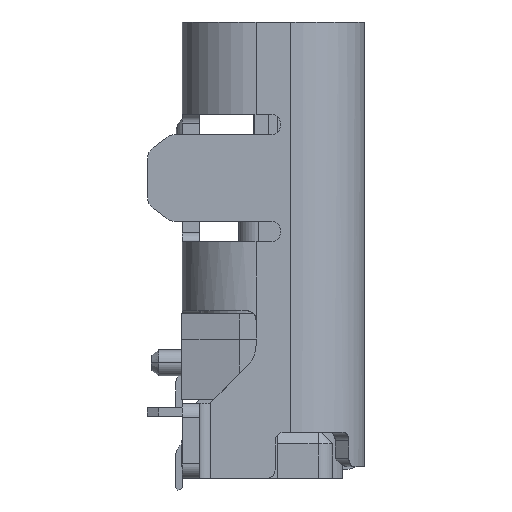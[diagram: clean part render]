
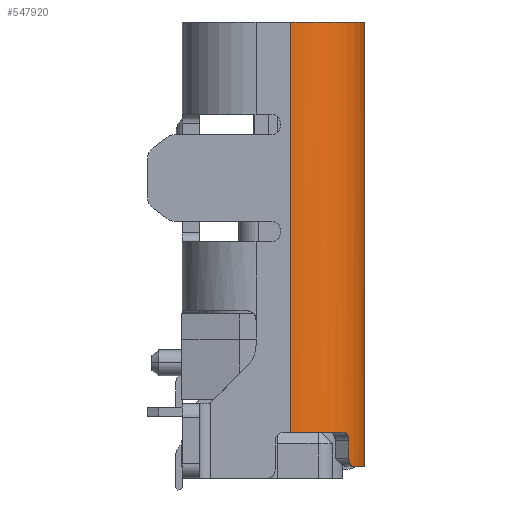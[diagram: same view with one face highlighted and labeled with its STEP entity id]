
A CAD part, left-side view. The second image highlights one B-rep face of the part: STEP entity #547920.
In plain terms, the highlighted cylindrical face has radius 1.28 mm (diameter 2.56 mm), a partial arc.
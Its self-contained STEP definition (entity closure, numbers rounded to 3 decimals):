
#470830=CARTESIAN_POINT('',(-3.982,-1.306,
-2.15));
#470840=DIRECTION('',(0.,0.,-1.));
#470850=VECTOR('',#470840,1000.);
#470860=LINE('',#470830,#470850);
#470870=CARTESIAN_POINT('',(-3.982,-1.306,-2.15));
#470880=VERTEX_POINT('',#470870);
#470890=CARTESIAN_POINT('',(-3.982,-1.306,
-2.45));
#470900=VERTEX_POINT('',#470890);
#470910=EDGE_CURVE('',#470880,#470900,#470860,.T.);
#472930=CARTESIAN_POINT('',(-3.19,-1.58,-2.6));
#472940=VERTEX_POINT('',#472930);
#472970=CARTESIAN_POINT('',(-3.19,-1.58,-2.6));
#472980=DIRECTION('',(0.,0.,
1.));
#472990=VECTOR('',#472980,1000.);
#473000=LINE('',#472970,#472990);
#473010=CARTESIAN_POINT('',(-3.19,-1.58,5.1));
#473020=VERTEX_POINT('',#473010);
#473030=EDGE_CURVE('',#472940,#473020,#473000,.T.);
#532390=CARTESIAN_POINT('',(-3.19,-0.3,5.1));
#532400=DIRECTION('',(0.,0.,1.));
#532410=DIRECTION('',(-1.,0.,0.));
#532420=AXIS2_PLACEMENT_3D('',#532390,#532400,#532410);
#532430=CIRCLE('',#532420,1.28);
#532440=CARTESIAN_POINT('',(-4.47,-0.3,5.1));
#532450=VERTEX_POINT('',#532440);
#532460=EDGE_CURVE('',#532450,#473020,#532430,.T.);
#534760=CARTESIAN_POINT('',(-4.47,-0.3,5.1));
#534770=DIRECTION('',(0.,0.,1.));
#534780=VECTOR('',#534770,1.);
#534790=LINE('',#534760,#534780);
#534800=CARTESIAN_POINT('',(-4.47,-0.3,-2.));
#534810=VERTEX_POINT('',#534800);
#534820=EDGE_CURVE('',#534810,#532450,#534790,.T.);
#547180=CARTESIAN_POINT('',(-3.19,-0.3,-2.));
#547190=DIRECTION('',(0.,0.,-1.));
#547200=DIRECTION('',(-0.706,-0.708,0.));
#547210=AXIS2_PLACEMENT_3D('',#547180,#547190,#547200);
#547220=CIRCLE('',#547210,1.28);
#547230=CARTESIAN_POINT('',(-4.094,-1.206,-2.));
#547240=VERTEX_POINT('',#547230);
#547250=EDGE_CURVE('',#547240,#534810,#547220,.T.);
#547420=CARTESIAN_POINT('',(-3.982,-1.306,
-2.15));
#547430=CARTESIAN_POINT('',(-3.982,-1.306,
-2.134));
#547440=CARTESIAN_POINT('',(-3.986,-1.303,
-2.103));
#547450=CARTESIAN_POINT('',(-4.003,-1.289,
-2.06));
#547460=CARTESIAN_POINT('',(-4.028,-1.267,
-2.027));
#547470=CARTESIAN_POINT('',(-4.06,-1.239,
-2.005));
#547480=CARTESIAN_POINT('',(-4.083,-1.217,-2.));
#547490=CARTESIAN_POINT('',(-4.094,-1.206,-2.));
#547500=B_SPLINE_CURVE_WITH_KNOTS('',3,(#547420,#547430,#547440,#547450,
#547460,#547470,#547480,#547490),.UNSPECIFIED.,.F.,.F.,(4,1,1,1,1,4),(0.
,0.2,0.4,0.6,0.8,1.),.UNSPECIFIED.);
#547510=EDGE_CURVE('',#470880,#547240,#547500,.T.);
#547590=CARTESIAN_POINT('',(-3.19,-0.3,5.1));
#547600=DIRECTION('',(0.,0.,1.));
#547610=DIRECTION('',(1.,0.,0.));
#547620=AXIS2_PLACEMENT_3D('',#547590,#547600,#547610);
#547630=CYLINDRICAL_SURFACE('',#547620,1.28);
#547640=CARTESIAN_POINT('',(-3.19,-0.3,-2.6));
#547650=DIRECTION('',(0.,0.,-1.));
#547660=DIRECTION('',(0.,-1.,0.));
#547670=AXIS2_PLACEMENT_3D('',#547640,#547650,#547660);
#547680=CIRCLE('',#547670,1.28);
#547690=CARTESIAN_POINT('',(-3.858,-1.392,-2.6));
#547700=VERTEX_POINT('',#547690);
#547710=EDGE_CURVE('',#472940,#547700,#547680,.T.);
#547720=ORIENTED_EDGE('',*,*,#547710,.F.);
#547730=CARTESIAN_POINT('',(-3.858,-1.392,-2.6));
#547740=CARTESIAN_POINT('',(-3.872,-1.383,-2.6));
#547750=CARTESIAN_POINT('',(-3.898,-1.366,
-2.595));
#547760=CARTESIAN_POINT('',(-3.934,-1.342,
-2.573));
#547770=CARTESIAN_POINT('',(-3.961,-1.322,
-2.54));
#547780=CARTESIAN_POINT('',(-3.978,-1.309,
-2.497));
#547790=CARTESIAN_POINT('',(-3.982,-1.306,
-2.466));
#547800=CARTESIAN_POINT('',(-3.982,-1.306,
-2.45));
#547810=B_SPLINE_CURVE_WITH_KNOTS('',3,(#547730,#547740,#547750,#547760,
#547770,#547780,#547790,#547800),.UNSPECIFIED.,.F.,.F.,(4,1,1,1,1,4),(0.
,0.2,0.4,0.6,0.8,1.),.UNSPECIFIED.);
#547820=EDGE_CURVE('',#547700,#470900,#547810,.T.);
#547830=ORIENTED_EDGE('',*,*,#547820,.F.);
#547840=ORIENTED_EDGE('',*,*,#470910,.T.);
#547850=ORIENTED_EDGE('',*,*,#547510,.F.);
#547860=ORIENTED_EDGE('',*,*,#547250,.F.);
#547870=ORIENTED_EDGE('',*,*,#534820,.F.);
#547880=ORIENTED_EDGE('',*,*,#532460,.F.);
#547890=ORIENTED_EDGE('',*,*,#473030,.T.);
#547900=EDGE_LOOP('',(#547890,#547880,#547870,#547860,#547850,#547840,
#547830,#547720));
#547910=FACE_OUTER_BOUND('',#547900,.T.);
#547920=ADVANCED_FACE('',(#547910),#547630,.T.);
